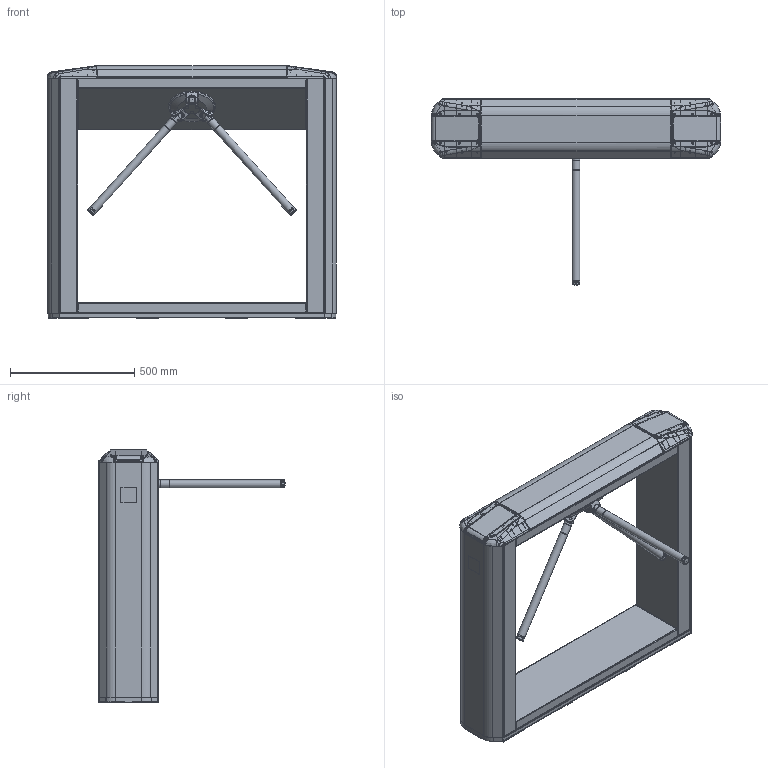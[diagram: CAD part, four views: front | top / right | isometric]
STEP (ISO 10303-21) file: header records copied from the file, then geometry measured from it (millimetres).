
FILE_DESCRIPTION(/* description */ ('Unknown'),/* implementation_level */ '2;1');
FILE_NAME(/* name */ 'Сборка10',/* time_stamp */ '2021-11-23T16:45:25+03:00',/* author */ ('Unknown'),/* organization */ ('Unknown'),/* preprocessor_version */ 'ST-DEVELOPER v18.1',/* originating_system */ 'Solid Edge',/* authorisation */ 'Unknown');
FILE_SCHEMA (('CONFIG_CONTROL_DESIGN'));
Products named in the file (39): 栖闉罻10; TTD-08A; TTD-08A.025.00 昢膼瘔膻嬅oa_0; TTD-08A.020.06 ﾒ矜; TTD-08A.021.00 玉桦栩咫黖oa_1; TTD-08A.021.01 Óñèëèòåëü; TTD-08A.020.01 栺樇罻; TTD-08A.021.00 玉桦栩咫黖oa_2; TTD-08A.025.03 Îïîðà; TTD-08A.015.00 忺謤僔_oa_3; TTD-08A.010.02 Ñòåíêà íèæíÿÿ; TTD-08A.010.03 Ñòåíêà áîêîâàÿ; TTD-08A.010.01 Ñòåíêà íàêëîííàÿ; TTD-08A.017.00 Ñòåíêà çàäíÿÿ_oa_4; TTD-08A.012.01 Ñòåíêà çàäíÿÿ; TTD-08A.030.00-02 扻羰騶oa_5; TTD-08A.031.00-01 扻羰騶oa_6; TTD-08A.031.01-01 ﾊ鮻; TTD-08A.030.02 栺樏鋋; TTD-08A.030.00-03 扻羰騶oa_7; TTD-08A.031.00-01 扻羰騶oa_8; TTD-08A.150.00 Êðûøêà_oa_9; TTD-08A.151.03 署赅; TTD-08A.151.03_2; TTD-08A.151.03_1; TTD-08A.150.00-01 Êðûøêà_oa_10; TTD-08A.041.00 Êðûøêà_oa_11; TTD-08A.041.01-01 署赅; 侹緺趌3M_Bumpon_SJ-5306_9,5x3,8; TB-01A.050.00-02 栖闉罻 憵羻睯罻_oa_12; TTR-07.301.01-05 枟羻睯獥r1; TB-01A.051.00-02 Ïëàíêà ïðåãðàæäàþùàÿ; TTR-07.630.01-02 嵑謺麃_r1; TTR-07.630.02 Âñòàâêà ìàëàÿ; TB-01A.051.01-01 秮鶋趌r2; Çàãëóøêà_CGR-322-090_(32õ2); TTR-07.300.11-02 Îñü; 嵑殧趌8_DIN_7980; 鎔艜_M8x25_DIN_912
Assembly tree (58 placements, depth 5):
  栖闉罻10
    TTD-08A
      TTD-08A.025.00 昢膼瘔膻嬅oa_0
        TTD-08A.020.06 ﾒ矜  x2
        TTD-08A.021.00 玉桦栩咫黖oa_1
          TTD-08A.021.01 Óñèëèòåëü
        TTD-08A.020.01 栺樇罻  x2
        TTD-08A.021.00 玉桦栩咫黖oa_2
          TTD-08A.021.01 Óñèëèòåëü
        TTD-08A.025.03 Îïîðà  x2
      TTD-08A.015.00 忺謤僔_oa_3
        TTD-08A.010.02 Ñòåíêà íèæíÿÿ
        TTD-08A.010.03 Ñòåíêà áîêîâàÿ  x2
        TTD-08A.010.01 Ñòåíêà íàêëîííàÿ
        TTD-08A.017.00 Ñòåíêà çàäíÿÿ_oa_4
          TTD-08A.012.01 Ñòåíêà çàäíÿÿ
      TTD-08A.030.00-02 扻羰騶oa_5
        TTD-08A.031.00-01 扻羰騶oa_6
          TTD-08A.031.01-01 ﾊ鮻
        TTD-08A.030.02 栺樏鋋
      TTD-08A.030.00-03 扻羰騶oa_7
        TTD-08A.031.00-01 扻羰騶oa_8
          TTD-08A.031.01-01 ﾊ鮻
        TTD-08A.030.02 栺樏鋋
      TTD-08A.150.00 Êðûøêà_oa_9
        TTD-08A.151.03 署赅
          TTD-08A.151.03_2
          TTD-08A.151.03_1
      TTD-08A.150.00-01 Êðûøêà_oa_10
        TTD-08A.151.03 署赅
          TTD-08A.151.03_2
          TTD-08A.151.03_1
      TTD-08A.041.00 Êðûøêà_oa_11
        TTD-08A.041.01-01 署赅
        侹緺趌3M_Bumpon_SJ-5306_9,5x3,8  x4
      TB-01A.050.00-02 栖闉罻 憵羻睯罻_oa_12
        TTR-07.301.01-05 枟羻睯獥r1
        TB-01A.051.00-02 Ïëàíêà ïðåãðàæäàþùàÿ  x3
          TTR-07.630.01-02 嵑謺麃_r1
          TTR-07.630.02 Âñòàâêà ìàëàÿ
          TB-01A.051.01-01 秮鶋趌r2
          Çàãëóøêà_CGR-322-090_(32õ2)
        TTR-07.300.11-02 Îñü  x3
      嵑殧趌8_DIN_7980  x3
      鎔艜_M8x25_DIN_912  x3
Bounding box: 1165.8 x 749.92 x 1016.48 mm (x, y, z)
Volume: 5575459.9 mm3; surface area: 6506099 mm2
Topology: 51 solids, 51 shells, 3165 faces, 8200 edges, 5088 vertices
Faces by surface type: plane 1469, cylinder 797, bspline 452, cone 194, torus 167, sphere 86
Full cylindrical faces by diameter (mm): 3.242 x27, 3.3 x59, 4 x1, 4.2 x4, 5 x16, 6.466 x3, 7 x12, 8 x19, 9 x3, 10 x21, 12 x4, 13 x3, 14.5 x3, 20 x1, 23.4 x3, 27 x6, 28 x3, 28.5 x6, 30 x2, 32 x9, 185 x1, 188 x1
Entity records: 82915 total; most frequent: CARTESIAN_POINT 27669, ORIENTED_EDGE 10328, DIRECTION 9063, EDGE_CURVE 5164, AXIS2_PLACEMENT_3D 3415, VERTEX_POINT 3272, FACE_BOUND 2596, EDGE_LOOP 2582
